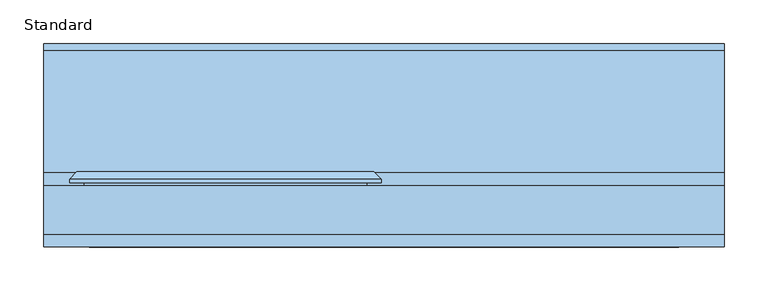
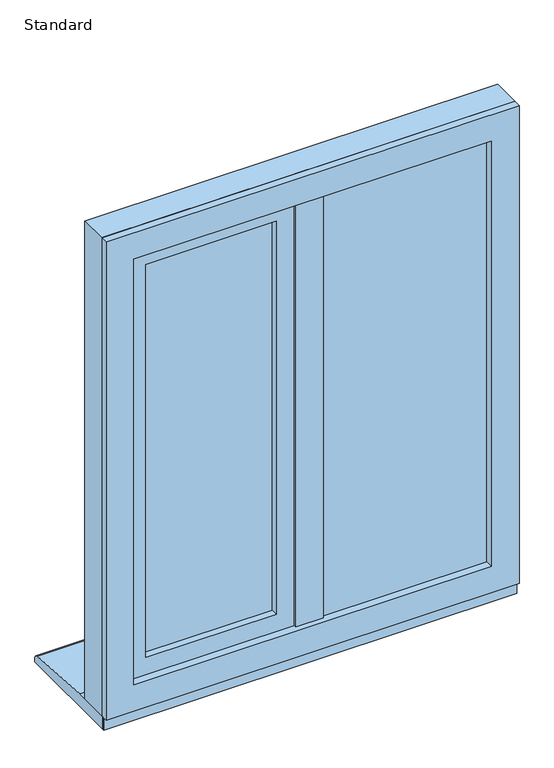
"""IFC4 building model written with IfcOpenShell, lengths in millimetres: window geometry, SMARTS_Alitherm600 : Standard."""

from ifc_helpers import new_model, si_unit, point, frame, frame_2d, origin, place, context, project, spatial, polyline, circle_curve, trimmed, segment, composite_curve, outline, extrude, faceted_brep, source, transform, mapped, element, save


def standard_82a43249(model_context):
    return source(origin(), model_context, "Body", "SolidModel", [
        extrude(outline(polyline([(-9.4, 102.8298432), (9.4, 102.8298432), (9.4, 47.2458572), (-9.4, 47.2458572), (-9.4, 102.8298432)])), frame((0.0, 0.0, 670.8979117), z_axis=(0.0, 0.0, 1.0), x_axis=(1.0, 0.0, 0.0)), (0.0, 0.0, 1.0), 883.2041766),
        extrude(outline(polyline([(-25.9020883, 47.2458572), (25.9020883, 47.2458572), (25.9020883, 43.2798432), (-25.9020883, 43.2798432), (-25.9020883, 47.2458572)])), frame((0.0, 0.0, 687.4), z_axis=(0.0, 0.0, 1.0), x_axis=(1.0, 0.0, 0.0)), (0.0, 0.0, 1.0), 850.2),
        extrude(outline(polyline([(1516.6, -316.6), (708.4, -316.6), (708.4, -47.0), (1516.6, -47.0), (1516.6, -316.6)]), holes=[polyline([(1506.6, -57.0), (718.4, -57.0), (718.4, -306.6), (1506.6, -306.6), (1506.6, -57.0)])]), frame((0.0, 72.3211351, 0.0), z_axis=(0.0, 1.0, 0.0), x_axis=(0.0, 0.0, 1.0)), (0.0, 0.0, 1.0), 16.0),
        extrude(outline(polyline([(-316.6, 92.3211351), (-47.0, 92.3211351), (-47.0, 88.3211351), (-316.6, 88.3211351), (-316.6, 92.3211351)])), frame((0.0, 0.0, 708.4), z_axis=(0.0, 0.0, 1.0), x_axis=(1.0, 0.0, 0.0)), (0.0, 0.0, 1.0), 808.2),
        extrude(outline(polyline([(-316.6, 72.3211351), (-47.0, 72.3211351), (-47.0, 68.3211351), (-316.6, 68.3211351), (-316.6, 72.3211351)])), frame((0.0, 0.0, 708.4), z_axis=(0.0, 0.0, 1.0), x_axis=(1.0, 0.0, 0.0)), (0.0, 0.0, 1.0), 808.2),
        faceted_brep([(-46.6778853, 118.8818325, 1516.9221147), (-58.859976, 97.7818325, 1504.740024), (-304.740024, 97.7818325, 1504.740024), (-316.9221147, 118.8818325, 1516.9221147), (-41.9939506, 97.7818325, 1521.6060494), (-41.9939506, 118.8818325, 1521.6060494), (-321.6060494, 118.8818325, 1521.6060494), (-321.6060494, 97.7818325, 1521.6060494), (-304.740024, 97.7818325, 720.259976), (-316.9221147, 118.8818325, 708.0778853), (-321.6060494, 118.8818325, 703.3939506), (-321.6060494, 97.7818325, 703.3939506), (-58.859976, 97.7818325, 720.259976), (-46.6778853, 118.8818325, 708.0778853), (-41.9939506, 118.8818325, 703.3939506), (-41.9939506, 97.7818325, 703.3939506)], [[[0, 1, 2, 3]], [[4, 5, 6, 7]], [[3, 2, 8, 9]], [[7, 6, 10, 11]], [[9, 8, 12, 13]], [[11, 10, 14, 15]], [[13, 12, 1, 0]], [[5, 14, 10, 6], [3, 9, 13, 0]], [[15, 14, 5, 4]], [[7, 11, 15, 4], [1, 12, 8, 2]]]),
        extrude(outline(polyline([(681.552908, -343.447092), (681.552908, -20.152908), (1543.447092, -20.152908), (1543.447092, -343.447092), (681.552908, -343.447092)]), holes=[polyline([(1505.1, -305.1), (1505.1, -58.5), (719.9, -58.5), (719.9, -305.1), (1505.1, -305.1)])]), frame((0.0, 50.2798432, 0.0), z_axis=(0.0, 1.0, 0.0), x_axis=(0.0, 0.0, 1.0)), (0.0, 0.0, 1.0), 13.0853156),
        faceted_brep([(-321.6060494, 118.8818325, 1521.6060494), (-321.6060494, 63.3651588, 1521.6060494), (-321.6060494, 63.3651588, 703.3939506), (-321.6060494, 118.8818325, 703.3939506), (-41.9939506, 63.3651588, 703.3939506), (-41.9939506, 118.8818325, 703.3939506), (-41.9939506, 63.3651588, 1521.6060494), (-41.9939506, 118.8818325, 1521.6060494), (-360.3358988, 106.2818325, 1560.3358988), (-360.3358988, 110.3519831, 1560.3358988), (-360.3358988, 110.3519831, 664.6641012), (-360.3358988, 106.2818325, 664.6641012), (-3.2641012, 110.3519831, 664.6641012), (-3.2641012, 106.2818325, 664.6641012), (-3.2641012, 110.3519831, 1560.3358988), (-3.2641012, 106.2818325, 1560.3358988), (-343.7467657, 106.2818325, 1543.7467657), (-19.8532343, 106.2818325, 1543.7467657), (-19.8532343, 106.2818325, 681.2532343), (-343.7467657, 106.2818325, 681.2532343), (-351.8060494, 118.8818325, 1551.8060494), (-11.7939506, 118.8818325, 1551.8060494), (-11.7939506, 118.8818325, 673.1939506), (-351.8060494, 118.8818325, 673.1939506), (-343.7467657, 63.3651588, 1543.7467657), (-343.7467657, 63.3651588, 681.2532343), (-19.8532343, 63.3651588, 681.2532343), (-19.8532343, 63.3651588, 1543.7467657)], [[[0, 1, 2, 3]], [[3, 2, 4, 5]], [[5, 4, 6, 7]], [[7, 6, 1, 0]], [[8, 9, 10, 11]], [[11, 10, 12, 13]], [[13, 12, 14, 15]], [[11, 13, 15, 8], [16, 17, 18, 19]], [[15, 14, 9, 8]], [[20, 21, 22, 23], [3, 5, 7, 0]], [[24, 16, 19, 25]], [[25, 19, 18, 26]], [[26, 18, 17, 27]], [[25, 26, 27, 24], [1, 6, 4, 2]], [[27, 17, 16, 24]], [[9, 20, 23, 10]], [[10, 23, 22, 12]], [[12, 22, 21, 14]], [[14, 21, 20, 9]]]),
        extrude(outline(polyline([(1590.0, 390.0), (1590.0, -390.0), (635.0, -390.0), (635.0, 390.0), (1590.0, 390.0)]), holes=[polyline([(670.85, 354.15), (670.85, -354.15), (1554.15, -354.15), (1554.15, 354.15), (670.85, 354.15)])]), frame((0.0, 47.2798427, 0.0), z_axis=(0.0, 1.0, 0.0), x_axis=(0.0, 0.0, 1.0)), (0.0, 0.0, 1.0), 55.5500006),
        extrude(outline(polyline([(1590.0, 390.0), (1590.0, -390.0), (635.0, -390.0), (635.0, 390.0), (1590.0, 390.0)]), holes=[polyline([(687.35, 337.65), (687.35, -337.65), (1537.65, -337.65), (1537.65, 337.65), (687.35, 337.65)])]), frame((0.0, 32.8298432, 0.0), z_axis=(0.0, 1.0, 0.0), x_axis=(0.0, 0.0, 1.0)), (0.0, 0.0, 1.0), 14.4499994),
        extrude(outline(polyline([(11.0, 77.7798432), (352.6, 77.7798432), (352.6, 73.7798432), (11.0, 73.7798432), (11.0, 77.7798432)])), frame((0.0, 0.0, 672.4), z_axis=(0.0, 0.0, 1.0), x_axis=(1.0, 0.0, 0.0)), (0.0, 0.0, 1.0), 880.2),
        extrude(outline(polyline([(11.0, 57.7798432), (352.6, 57.7798432), (352.6, 53.7798432), (11.0, 53.7798432), (11.0, 57.7798432)])), frame((0.0, 0.0, 672.4), z_axis=(0.0, 0.0, 1.0), x_axis=(1.0, 0.0, 0.0)), (0.0, 0.0, 1.0), 880.2),
        extrude(outline(polyline([(1552.6, 11.0), (672.4, 11.0), (672.4, 352.6), (1552.6, 352.6), (1552.6, 11.0)]), holes=[polyline([(1542.6, 342.6), (682.4, 342.6), (682.4, 21.0), (1542.6, 21.0), (1542.6, 342.6)])]), frame((0.0, 57.7798432, 0.0), z_axis=(0.0, 1.0, 0.0), x_axis=(0.0, 0.0, 1.0)), (0.0, 0.0, 1.0), 16.0),
        faceted_brep([(14.1839347, 102.7798432, 1549.4160653), (26.3660254, 81.6798432, 1537.2339746), (26.3660254, 81.6798432, 687.7660254), (14.1839347, 102.7798432, 675.5839347), (337.2339746, 81.6798432, 687.7660254), (349.4160653, 102.7798432, 675.5839347), (337.2339746, 81.6798432, 1537.2339746), (349.4160653, 102.7798432, 1549.4160653), (354.1, 81.6798432, 1554.1), (354.1, 102.7798432, 1554.1), (9.5, 102.7798432, 1554.1), (9.5, 81.6798432, 1554.1), (9.5, 102.7798432, 670.9), (9.5, 81.6798432, 670.9), (354.1, 102.7798432, 670.9), (354.1, 81.6798432, 670.9)], [[[0, 1, 2, 3]], [[3, 2, 4, 5]], [[5, 4, 6, 7]], [[7, 6, 1, 0]], [[8, 9, 10, 11]], [[11, 10, 12, 13]], [[13, 12, 14, 15]], [[9, 14, 12, 10], [0, 3, 5, 7]], [[15, 14, 9, 8]], [[11, 13, 15, 8], [6, 4, 2, 1]]]),
        extrude(outline(polyline([(390.0, 43.2798432), (390.0, 40.7798432), (-390.0, 40.7798432), (-390.0, 43.2798432), (390.0, 43.2798432)])), frame((0.0, 0.0, 610.0), z_axis=(0.0, 0.0, 1.0), x_axis=(1.0, 0.0, 0.0)), (0.0, 0.0, 1.0), 31.0),
        extrude(outline(composite_curve([segment(polyline([(265.7798432, 610.0), (43.2798432, 610.0), (43.2798432, 635.0), (118.7798432, 635.0), (258.4770891, 625.9276664)]), True, "CONTINUOUS"), segment(trimmed(circle_curve(frame_2d((257.7798432, 617.9581088)), 8.0), [point((258.4770891, 625.9276664))], [point((265.7798432, 617.9581088))], False, "CARTESIAN"), True, "CONTINUOUS"), segment(polyline([(265.7798432, 617.9581088), (265.7798432, 610.0)]), True, "CONTINUOUS")], self_intersect=False)), frame((-390.0, 0.0, 0.0), z_axis=(1.0, 0.0, 0.0), x_axis=(0.0, 1.0, 0.0)), (0.0, 0.0, 1.0), 780.0),
    ])


if __name__ == "__main__":
    model = new_model("IFC4")
    model_context = context("Model", 3, world=origin())
    ifc_project = project(units=[si_unit("LENGTHUNIT", "METRE", prefix="MILLI")], contexts=[model_context])
    site = spatial("IfcSite", under=ifc_project)
    building = spatial("IfcBuilding", under=site)
    placement = place(None, origin())
    standard_shape = standard_82a43249(model_context)
    element("IfcWindow", 1, ObjectType="SMARTS_Alitherm600 : Standard", at=placement, inside=building, context=model_context, shape_type="MappedRepresentation", body=[
        mapped(standard_shape, transform((0.0, 0.0, 0.0), x_axis=(1.0, 0.0, 0.0), y_axis=(0.0, 1.0, 0.0), z_axis=(0.0, 0.0, 1.0))),
    ])
    save(model, "model.ifc")
